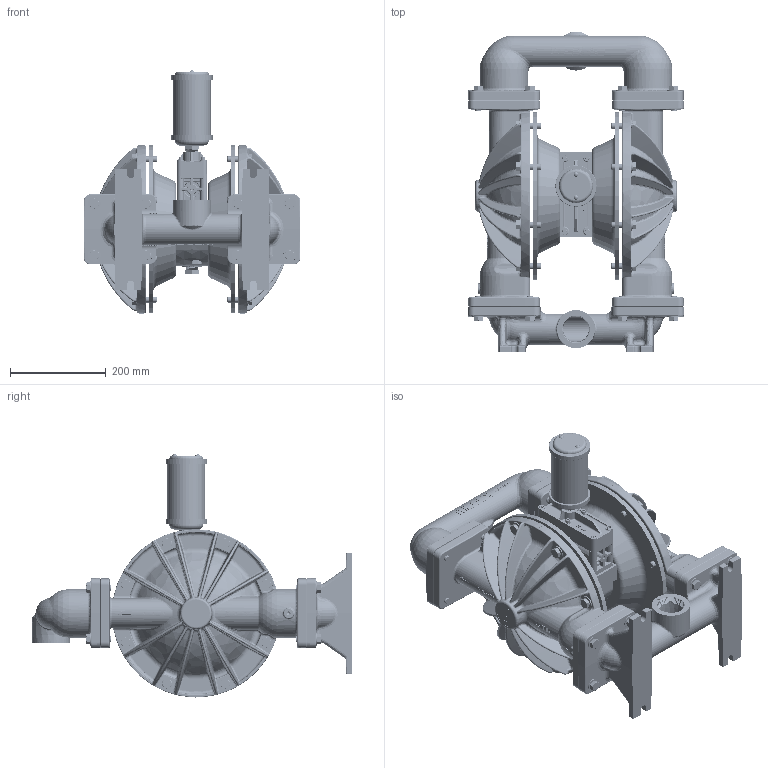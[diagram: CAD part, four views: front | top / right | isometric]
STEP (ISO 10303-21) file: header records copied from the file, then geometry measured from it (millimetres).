
FILE_DESCRIPTION((''),'2;1');
FILE_NAME('P820_ALUM_TOP_SW0002','2017-07-26T',('10013162'),(''),'PRO/ENGINEER BY PARAMETRIC TECHNOLOGY CORPORATION, 2015360','PRO/ENGINEER BY PARAMETRIC TECHNOLOGY CORPORATION, 2015360','');
FILE_SCHEMA(('CONFIG_CONTROL_DESIGN'));
Products named in the file (1): P820_ALUM_TOP_SW0002
Bounding box: 453.45 x 670.36 x 509.39 mm (x, y, z)
Volume: 13442569.8 mm3; surface area: 2589148.6 mm2
Topology: 4 solids, 7 shells, 11298 faces, 29224 edges, 18371 vertices
Faces by surface type: plane 6167, cylinder 1836, bspline 1656, cone 680, torus 608, sphere 301, extrusion 50
Entity records: 727191 total; most frequent: CARTESIAN_POINT 466514, ORIENTED_EDGE 58384, DIRECTION 48139, EDGE_CURVE 29192, VERTEX_POINT 18371, VECTOR 16443, LINE 16393, AXIS2_PLACEMENT_3D 15848
